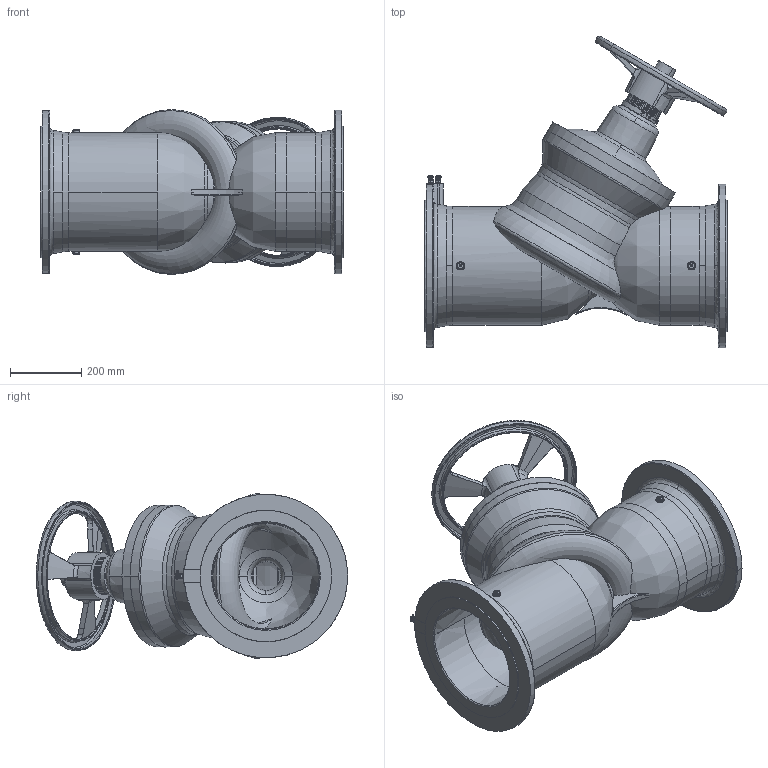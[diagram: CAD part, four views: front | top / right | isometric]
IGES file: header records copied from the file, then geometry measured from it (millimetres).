
Global section: file name: No Iges File Name specified; native system: AutoDesk Inventor R12.0; preprocessor: AutoDesk Inventor Iges Exporter R12.0; date: 20110301.160455; units: millimetre
Bounding box: 850 x 875.55 x 462.62 mm (x, y, z)
Volume: 44253017.3 mm3; surface area: 3261732.3 mm2
Topology: 1 solids, 4 shells, 1029 faces, 2691 edges, 1762 vertices
Faces by surface type: plane 328, bspline 313, cylinder 132, revolution 126, cone 76, torus 54
